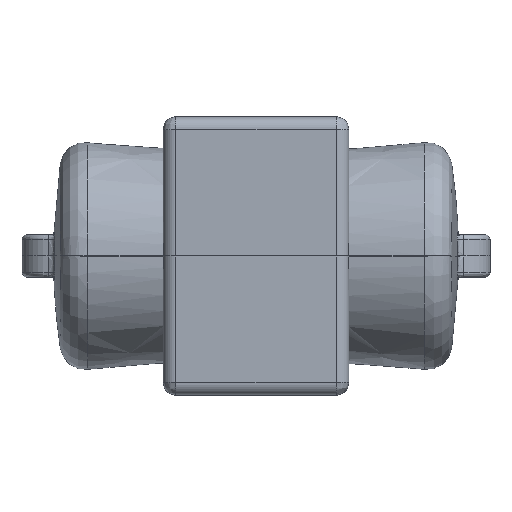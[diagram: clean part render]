
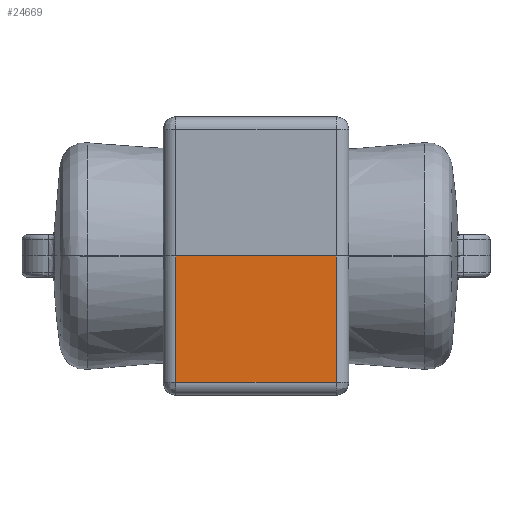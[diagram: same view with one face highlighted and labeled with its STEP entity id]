
A CAD part, front view. The second image highlights one B-rep face of the part: STEP entity #24669.
In plain terms, the highlighted planar face has unit normal (0, -1, 0).
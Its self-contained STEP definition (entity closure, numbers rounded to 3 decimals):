
#692 = EDGE_CURVE ( 'NONE', #24317, #11420, #15037, .T. ) ;
#2209 = ORIENTED_EDGE ( 'NONE', *, *, #4345, .T. ) ;
#2231 = PLANE ( 'NONE',  #12653 ) ;
#2237 = ORIENTED_EDGE ( 'NONE', *, *, #692, .F. ) ;
#2309 = ORIENTED_EDGE ( 'NONE', *, *, #4386, .T. ) ;
#2392 = ORIENTED_EDGE ( 'NONE', *, *, #3767, .F. ) ;
#3767 = EDGE_CURVE ( 'NONE', #14067, #5960, #16495, .T. ) ;
#4280 = CARTESIAN_POINT ( 'NONE',  ( 13.694, -14.938, -45.5 ) ) ;
#4345 = EDGE_CURVE ( 'NONE', #14067, #11420, #16964, .T. ) ;
#4386 = EDGE_CURVE ( 'NONE', #24317, #5960, #16971, .T. ) ;
#4761 = DIRECTION ( 'NONE',  ( 0., 0., -1. ) ) ;
#4816 = CARTESIAN_POINT ( 'NONE',  ( 11.794, -14.938, -12.5 ) ) ;
#5960 = VERTEX_POINT ( 'NONE', #20911 ) ;
#6395 = DIRECTION ( 'NONE',  ( 0., 0., -1. ) ) ;
#9882 = CARTESIAN_POINT ( 'NONE',  ( 13.694, -14.938, -14. ) ) ;
#9909 = DIRECTION ( 'NONE',  ( -1., 0., 0. ) ) ;
#10046 = CARTESIAN_POINT ( 'NONE',  ( 13.694, -14.938, -44. ) ) ;
#10052 = CARTESIAN_POINT ( 'NONE',  ( -26.206, -14.938, -44. ) ) ;
#10184 = DIRECTION ( 'NONE',  ( 1., 0., 0. ) ) ;
#10455 = CARTESIAN_POINT ( 'NONE',  ( 11.794, -14.938, -14. ) ) ;
#11420 = VERTEX_POINT ( 'NONE', #17680 ) ;
#12653 = AXIS2_PLACEMENT_3D ( 'NONE', #4280, #19066, #6395 ) ;
#13983 = DIRECTION ( 'NONE',  ( 0., 0., 1. ) ) ;
#14013 = CARTESIAN_POINT ( 'NONE',  ( -26.206, -14.938, -12.5 ) ) ;
#14067 = VERTEX_POINT ( 'NONE', #10052 ) ;
#15037 = LINE ( 'NONE', #4816, #15258 ) ;
#15258 = VECTOR ( 'NONE', #4761, 1000. ) ;
#16495 = LINE ( 'NONE', #14013, #16542 ) ;
#16542 = VECTOR ( 'NONE', #13983, 1000. ) ;
#16964 = LINE ( 'NONE', #10046, #17004 ) ;
#16971 = LINE ( 'NONE', #9882, #17039 ) ;
#17004 = VECTOR ( 'NONE', #10184, 1000. ) ;
#17039 = VECTOR ( 'NONE', #9909, 1000. ) ;
#17680 = CARTESIAN_POINT ( 'NONE',  ( 11.794, -14.938, -44. ) ) ;
#19066 = DIRECTION ( 'NONE',  ( 0., -1., 0. ) ) ;
#20911 = CARTESIAN_POINT ( 'NONE',  ( -26.206, -14.938, -14. ) ) ;
#21496 = EDGE_LOOP ( 'NONE', ( #2209, #2237, #2309, #2392 ) ) ;
#24317 = VERTEX_POINT ( 'NONE', #10455 ) ;
#24669 = ADVANCED_FACE ( 'NONE', ( #26392 ), #2231, .T. ) ;
#26392 = FACE_OUTER_BOUND ( 'NONE', #21496, .T. ) ;
